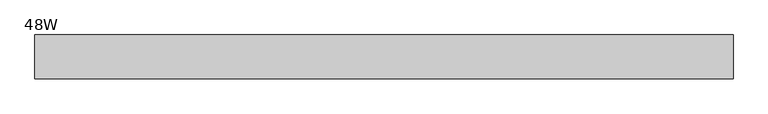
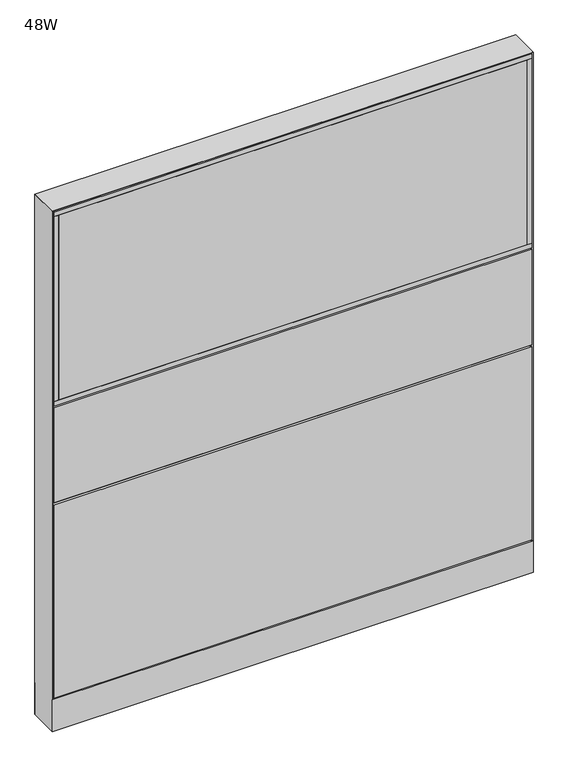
"""IFC4 building model written with IfcOpenShell, lengths in millimetres: furniture geometry, Steelcase - Montage - Frame - 55H - Enhanced Monolithic - Base Cavity : 48W."""

from ifc_helpers import new_model, si_unit, point, frame, frame_2d, origin, origin_with_axes, place, context, project, spatial, polyline, circle_curve, trimmed, segment, composite_curve, outline, extrude, faceted_brep, source, transform, mapped, element, save


def furniture_48w_534e3d43(model_context):
    return source(origin(), model_context, "Body", "SolidModel", [
        extrude(outline(polyline([(15.875, 38.1000015), (1203.325, 38.1000015), (1203.325, 31.7500017), (15.875, 31.7500017), (15.875, 38.1000015)])), frame((0.0, 0.0, 887.4125), z_axis=(0.0, 0.0, 1.0), x_axis=(1.0, 0.0, 0.0)), (0.0, 0.0, 1.0), 495.3),
        extrude(outline(polyline([(15.875, -31.7499985), (1203.325, -31.7499985), (1203.325, -38.1000015), (15.875, -38.1000015), (15.875, -31.7499985)])), frame((0.0, 0.0, 887.4125), z_axis=(0.0, 0.0, 1.0), x_axis=(1.0, 0.0, 0.0)), (0.0, 0.0, 1.0), 495.3),
        extrude(outline(polyline([(3.175, -38.1000015), (3.175, 38.1000015), (15.875, 38.1000015), (15.875, -38.1000015), (3.175, -38.1000015)])), frame((0.0, 0.0, 887.4125), z_axis=(0.0, 0.0, 1.0), x_axis=(1.0, 0.0, 0.0)), (0.0, 0.0, 1.0), 495.3),
        extrude(outline(polyline([(1203.325, -38.1000015), (1203.325, 38.1000015), (1216.025, 38.1000015), (1216.025, -38.1000015), (1203.325, -38.1000015)])), frame((0.0, 0.0, 887.4125), z_axis=(0.0, 0.0, 1.0), x_axis=(1.0, 0.0, 0.0)), (0.0, 0.0, 1.0), 495.3),
        extrude(outline(polyline([(3.175, -38.1000015), (3.175, 38.1000015), (1216.025, 38.1000015), (1216.025, -38.1000015), (3.175, -38.1000015)])), frame((0.0, 0.0, 874.7125), z_axis=(0.0, 0.0, 1.0), x_axis=(1.0, 0.0, 0.0)), (0.0, 0.0, 1.0), 12.7),
        extrude(outline(polyline([(3.175, -38.1000015), (3.175, 38.1000015), (1216.025, 38.1000015), (1216.025, -38.1000015), (3.175, -38.1000015)])), frame((0.0, 0.0, 1382.7125), z_axis=(0.0, 0.0, 1.0), x_axis=(1.0, 0.0, 0.0)), (0.0, 0.0, 1.0), 12.7),
        extrude(outline(polyline([(1216.025, 31.7500194), (3.175, 31.7500194), (3.175, 38.1000194), (1216.025, 38.1000194), (1216.025, 31.7500194)])), frame((0.0, 0.0, 615.95), z_axis=(0.0, 0.0, 1.0), x_axis=(1.0, 0.0, 0.0)), (0.0, 0.0, 1.0), 255.5875),
        extrude(outline(polyline([(1216.025, 31.7500194), (3.175, 31.7500194), (3.175, 38.1000194), (1216.025, 38.1000194), (1216.025, 31.7500194)])), frame((0.0, 0.0, 92.075), z_axis=(0.0, 0.0, 1.0), x_axis=(1.0, 0.0, 0.0)), (0.0, 0.0, 1.0), 517.525),
        extrude(outline(polyline([(1203.325, 38.1000015), (1203.325, 31.7500017), (15.875, 31.7500017), (15.875, 38.1000015), (1203.325, 38.1000015)])), frame((0.0, 0.0, 887.4125), z_axis=(0.0, 0.0, 1.0), x_axis=(1.0, 0.0, 0.0)), (0.0, 0.0, 1.0), 495.3),
        extrude(outline(polyline([(1203.325, -31.7499985), (1203.325, -38.1000015), (15.875, -38.1000015), (15.875, -31.7499985), (1203.325, -31.7499985)])), frame((0.0, 0.0, 887.4125), z_axis=(0.0, 0.0, 1.0), x_axis=(1.0, 0.0, 0.0)), (0.0, 0.0, 1.0), 495.3),
        extrude(outline(polyline([(1216.025, -38.1000015), (1203.325, -38.1000015), (1203.325, 38.1000015), (1216.025, 38.1000015), (1216.025, -38.1000015)])), frame((0.0, 0.0, 887.4125), z_axis=(0.0, 0.0, 1.0), x_axis=(1.0, 0.0, 0.0)), (0.0, 0.0, 1.0), 495.3),
        extrude(outline(polyline([(15.875, -38.1000015), (3.175, -38.1000015), (3.175, 38.1000015), (15.875, 38.1000015), (15.875, -38.1000015)])), frame((0.0, 0.0, 887.4125), z_axis=(0.0, 0.0, 1.0), x_axis=(1.0, 0.0, 0.0)), (0.0, 0.0, 1.0), 495.3),
        extrude(outline(polyline([(1216.025, -38.1000015), (3.175, -38.1000015), (3.175, 38.1000015), (1216.025, 38.1000015), (1216.025, -38.1000015)])), frame((0.0, 0.0, 874.7125), z_axis=(0.0, 0.0, 1.0), x_axis=(1.0, 0.0, 0.0)), (0.0, 0.0, 1.0), 12.7),
        extrude(outline(polyline([(1216.025, -38.1000015), (3.175, -38.1000015), (3.175, 38.1000015), (1216.025, 38.1000015), (1216.025, -38.1000015)])), frame((0.0, 0.0, 1382.7125), z_axis=(0.0, 0.0, 1.0), x_axis=(1.0, 0.0, 0.0)), (0.0, 0.0, 1.0), 12.7),
        extrude(outline(polyline([(3.175, 31.7500194), (3.175, 38.1000194), (1216.025, 38.1000194), (1216.025, 31.7500194), (3.175, 31.7500194)])), frame((0.0, 0.0, 615.95), z_axis=(0.0, 0.0, 1.0), x_axis=(1.0, 0.0, 0.0)), (0.0, 0.0, 1.0), 255.5875),
        extrude(outline(polyline([(3.175, 31.7500194), (3.175, 38.1000194), (1216.025, 38.1000194), (1216.025, 31.7500194), (3.175, 31.7500194)])), frame((0.0, 0.0, 92.075), z_axis=(0.0, 0.0, 1.0), x_axis=(1.0, 0.0, 0.0)), (0.0, 0.0, 1.0), 517.525),
        extrude(outline(polyline([(1203.325, -38.1000015), (15.875, -38.1000015), (15.875, -31.7500017), (1203.325, -31.7500017), (1203.325, -38.1000015)])), frame((0.0, 0.0, 887.4125), z_axis=(0.0, 0.0, 1.0), x_axis=(1.0, 0.0, 0.0)), (0.0, 0.0, 1.0), 495.3),
        extrude(outline(polyline([(1203.325, 31.7499985), (15.875, 31.7499985), (15.875, 38.1000015), (1203.325, 38.1000015), (1203.325, 31.7499985)])), frame((0.0, 0.0, 887.4125), z_axis=(0.0, 0.0, 1.0), x_axis=(1.0, 0.0, 0.0)), (0.0, 0.0, 1.0), 495.3),
        extrude(outline(polyline([(1216.025, 38.1000015), (1216.025, -38.1000015), (1203.325, -38.1000015), (1203.325, 38.1000015), (1216.025, 38.1000015)])), frame((0.0, 0.0, 887.4125), z_axis=(0.0, 0.0, 1.0), x_axis=(1.0, 0.0, 0.0)), (0.0, 0.0, 1.0), 495.3),
        extrude(outline(polyline([(15.875, 38.1000015), (15.875, -38.1000015), (3.175, -38.1000015), (3.175, 38.1000015), (15.875, 38.1000015)])), frame((0.0, 0.0, 887.4125), z_axis=(0.0, 0.0, 1.0), x_axis=(1.0, 0.0, 0.0)), (0.0, 0.0, 1.0), 495.3),
        extrude(outline(polyline([(1216.025, 38.1000015), (1216.025, -38.1000015), (3.175, -38.1000015), (3.175, 38.1000015), (1216.025, 38.1000015)])), frame((0.0, 0.0, 874.7125), z_axis=(0.0, 0.0, 1.0), x_axis=(1.0, 0.0, 0.0)), (0.0, 0.0, 1.0), 12.7),
        extrude(outline(polyline([(1216.025, 38.1000015), (1216.025, -38.1000015), (3.175, -38.1000015), (3.175, 38.1000015), (1216.025, 38.1000015)])), frame((0.0, 0.0, 1382.7125), z_axis=(0.0, 0.0, 1.0), x_axis=(1.0, 0.0, 0.0)), (0.0, 0.0, 1.0), 12.7),
        extrude(outline(polyline([(3.175, -31.7500194), (1216.025, -31.7500194), (1216.025, -38.1000194), (3.175, -38.1000194), (3.175, -31.7500194)])), frame((0.0, 0.0, 615.95), z_axis=(0.0, 0.0, 1.0), x_axis=(1.0, 0.0, 0.0)), (0.0, 0.0, 1.0), 255.5875),
        extrude(outline(polyline([(3.175, -31.7500194), (1216.025, -31.7500194), (1216.025, -38.1000194), (3.175, -38.1000194), (3.175, -31.7500194)])), frame((0.0, 0.0, 92.075), z_axis=(0.0, 0.0, 1.0), x_axis=(1.0, 0.0, 0.0)), (0.0, 0.0, 1.0), 517.525),
        extrude(outline(polyline([(6.350003, -31.7499985), (1212.849997, -31.7499985), (1219.2, -38.1000015), (0.0, -38.1000015), (6.350003, -31.7499985)])), frame((0.0, 0.0, 4.064), z_axis=(0.0, 0.0, 1.0), x_axis=(1.0, 0.0, 0.0)), (0.0, 0.0, 1.0), 84.835997),
        extrude(outline(polyline([(6.3500002, 31.7500017), (0.0, 38.1000015), (1219.2, 38.1000015), (1212.8500002, 31.7500017), (6.3500002, 31.7500017)])), frame((0.0, 0.0, 4.064), z_axis=(0.0, 0.0, 1.0), x_axis=(1.0, 0.0, 0.0)), (0.0, 0.0, 1.0), 84.835997),
        faceted_brep([(1219.2, -38.1000015, 1398.5875), (0.0, -38.1000015, 1398.5875), (6.3500484, -31.749953, 1392.2374516), (1212.8499516, -31.749953, 1392.2374516), (6.3500484, 31.749953, 1392.2374516), (1212.8499516, 31.749953, 1392.2374516), (0.0, 38.1000015, 1398.5875), (1219.2, 38.1000015, 1398.5875)], [[[0, 1, 2, 3]], [[3, 2, 4, 5]], [[6, 7, 5, 4]], [[1, 0, 7, 6]], [[2, 1, 6, 4]], [[0, 3, 5, 7]]]),
        extrude(outline(composite_curve([segment(trimmed(circle_curve(frame_2d((44.45, 0.0)), 15.24), [point((29.21, 0.0))], [point((59.69, 0.0))], False, "CARTESIAN"), True, "CONTINUOUS"), segment(trimmed(circle_curve(frame_2d((44.45, 0.0)), 15.24), [point((59.69, 0.0))], [point((29.21, 0.0))], False, "CARTESIAN"), True, "CONTINUOUS")], self_intersect=False)), origin_with_axes(), (0.0, 0.0, 1.0), 4.064),
        extrude(outline(composite_curve([segment(trimmed(circle_curve(frame_2d((1174.75, 0.0)), 15.24), [point((1159.51, 0.0))], [point((1189.99, 0.0))], False, "CARTESIAN"), True, "CONTINUOUS"), segment(trimmed(circle_curve(frame_2d((1174.75, 0.0)), 15.24), [point((1189.99, 0.0))], [point((1159.51, 0.0))], False, "CARTESIAN"), True, "CONTINUOUS")], self_intersect=False)), origin_with_axes(), (0.0, 0.0, 1.0), 4.064),
        faceted_brep([(1219.2, -38.1000106, 4.064), (1219.2, 38.1000015, 4.064), (1219.2, 38.1000015, 1398.5875), (1219.2, -38.1000106, 1398.5874637), (0.0, 38.1000015, 4.064), (0.0, -38.1000015, 4.064), (0.0, -38.1000015, 1398.5875), (0.0, 38.1000015, 1398.5875), (1212.8499879, 31.7500017, 606.425), (6.35, 31.7500017, 606.425), (6.3499998, 31.7500017, 619.125), (1212.8499879, 31.7500017, 619.125), (6.35, -31.7499985, 619.125), (1212.8499879, -31.7499985, 619.125), (6.350003, -31.7499985, 606.425), (1212.8499879, -31.7499985, 606.425), (6.35, 31.7500015, 4.064), (6.35, -31.7500015, 4.064), (1212.8499879, 31.7499894, 4.064), (1212.8499879, -31.7499985, 4.064), (6.35, 31.7500015, 1392.2375), (6.35, -31.7500015, 1392.2375), (1212.8499879, -31.7499985, 1392.2374516), (1212.8499879, 31.7499895, 1392.2374516)], [[[0, 1, 2, 3]], [[4, 5, 6, 7]], [[8, 9, 10, 11]], [[11, 10, 12, 13]], [[13, 12, 14, 15]], [[9, 8, 15, 14]], [[16, 17, 5, 4]], [[18, 1, 0, 19]], [[16, 4, 7, 20, 10, 9]], [[5, 17, 14, 12, 21, 6]], [[17, 16, 9, 14]], [[12, 10, 20, 21]], [[18, 19, 15, 8]], [[11, 13, 22, 23]], [[19, 0, 3, 22, 13, 15]], [[1, 18, 8, 11, 23, 2]], [[7, 6, 21, 20]], [[3, 2, 23, 22]]]),
    ])


if __name__ == "__main__":
    model = new_model("IFC4")
    model_context = context("Model", 3, world=origin())
    ifc_project = project(units=[si_unit("LENGTHUNIT", "METRE", prefix="MILLI")], contexts=[model_context])
    site = spatial("IfcSite", under=ifc_project)
    building = spatial("IfcBuilding", under=site)
    placement = place(None, origin())
    furniture_48w_shape = furniture_48w_534e3d43(model_context)
    element("IfcFurniture", 1, ObjectType="Steelcase - Montage - Frame - 55H - Enhanced Monolithic - Base Cavity : 48W", at=placement, inside=building, context=model_context, shape_type="MappedRepresentation", body=[
        mapped(furniture_48w_shape, transform((0.0, 0.0, 0.0), x_axis=(1.0, 0.0, 0.0), y_axis=(0.0, 1.0, 0.0), z_axis=(0.0, 0.0, 1.0))),
    ])
    save(model, "model.ifc")
